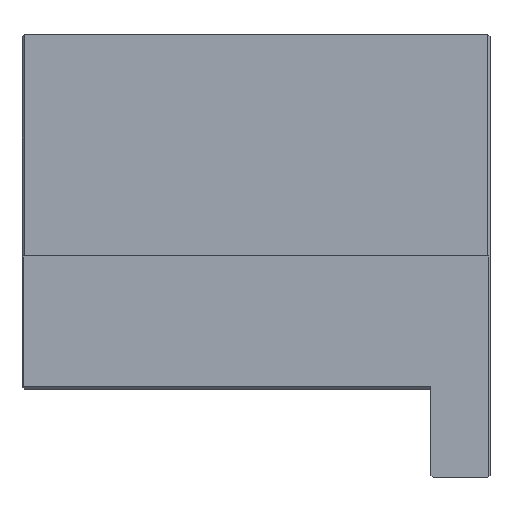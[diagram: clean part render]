
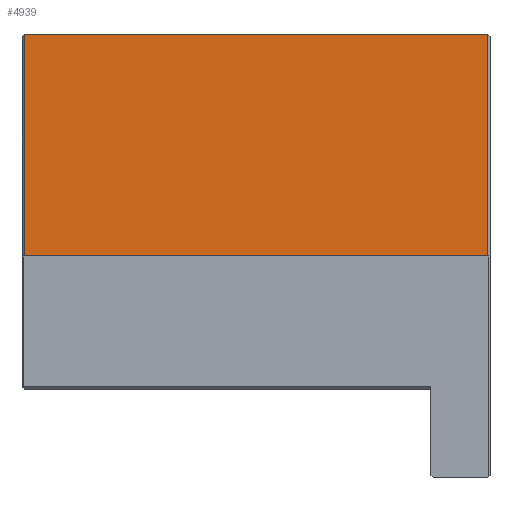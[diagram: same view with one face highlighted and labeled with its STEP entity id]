
A CAD part, front view. The second image highlights one B-rep face of the part: STEP entity #4939.
In plain terms, the highlighted planar face has unit normal (0, -1, 0).
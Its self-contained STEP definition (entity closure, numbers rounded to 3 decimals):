
#162 = FACE_OUTER_BOUND ( 'NONE', #4821, .T. ) ;
#347 = CARTESIAN_POINT ( 'NONE',  ( -46.5, -47.5, 45. ) ) ;
#364 = EDGE_CURVE ( 'NONE', #542, #1928, #2951, .T. ) ;
#542 = VERTEX_POINT ( 'NONE', #3564 ) ;
#707 = VERTEX_POINT ( 'NONE', #2295 ) ;
#1097 = VECTOR ( 'NONE', #1169, 1000. ) ;
#1147 = CARTESIAN_POINT ( 'NONE',  ( -48., -47.5, 0. ) ) ;
#1169 = DIRECTION ( 'NONE',  ( 0., 0., -1. ) ) ;
#1423 = ORIENTED_EDGE ( 'NONE', *, *, #3184, .F. ) ;
#1541 = ORIENTED_EDGE ( 'NONE', *, *, #1746, .T. ) ;
#1746 = EDGE_CURVE ( 'NONE', #4720, #707, #3951, .T. ) ;
#1747 = CARTESIAN_POINT ( 'NONE',  ( 46., -47.5, 45. ) ) ;
#1867 = AXIS2_PLACEMENT_3D ( 'NONE', #3437, #3380, #3292 ) ;
#1928 = VERTEX_POINT ( 'NONE', #4639 ) ;
#1954 = CARTESIAN_POINT ( 'NONE',  ( -48.5, -47.5, 0. ) ) ;
#1990 = DIRECTION ( 'NONE',  ( 0., 0., 1. ) ) ;
#2065 = DIRECTION ( 'NONE',  ( 1., 0., 0. ) ) ;
#2208 = VECTOR ( 'NONE', #1990, 1000. ) ;
#2295 = CARTESIAN_POINT ( 'NONE',  ( -48., -47.5, 0. ) ) ;
#2533 = CARTESIAN_POINT ( 'NONE',  ( -48., -47.5, 45. ) ) ;
#2719 = ORIENTED_EDGE ( 'NONE', *, *, #364, .T. ) ;
#2876 = VECTOR ( 'NONE', #4386, 1000. ) ;
#2939 = EDGE_CURVE ( 'NONE', #707, #542, #4628, .T. ) ;
#2951 = LINE ( 'NONE', #1747, #2208 ) ;
#3184 = EDGE_CURVE ( 'NONE', #4720, #1928, #4127, .T. ) ;
#3291 = ORIENTED_EDGE ( 'NONE', *, *, #2939, .T. ) ;
#3292 = DIRECTION ( 'NONE',  ( 0., 0., 1. ) ) ;
#3380 = DIRECTION ( 'NONE',  ( 0., 1., 0. ) ) ;
#3437 = CARTESIAN_POINT ( 'NONE',  ( -46.5, -47.5, 45. ) ) ;
#3452 = VECTOR ( 'NONE', #2065, 1000. ) ;
#3564 = CARTESIAN_POINT ( 'NONE',  ( 46., -47.5, 0. ) ) ;
#3610 = PLANE ( 'NONE',  #1867 ) ;
#3951 = LINE ( 'NONE', #1147, #1097 ) ;
#4127 = LINE ( 'NONE', #347, #2876 ) ;
#4386 = DIRECTION ( 'NONE',  ( 1., 0., 0. ) ) ;
#4628 = LINE ( 'NONE', #1954, #3452 ) ;
#4639 = CARTESIAN_POINT ( 'NONE',  ( 46., -47.5, 45. ) ) ;
#4720 = VERTEX_POINT ( 'NONE', #2533 ) ;
#4821 = EDGE_LOOP ( 'NONE', ( #3291, #2719, #1423, #1541 ) ) ;
#4939 = ADVANCED_FACE ( 'NONE', ( #162 ), #3610, .F. ) ;
